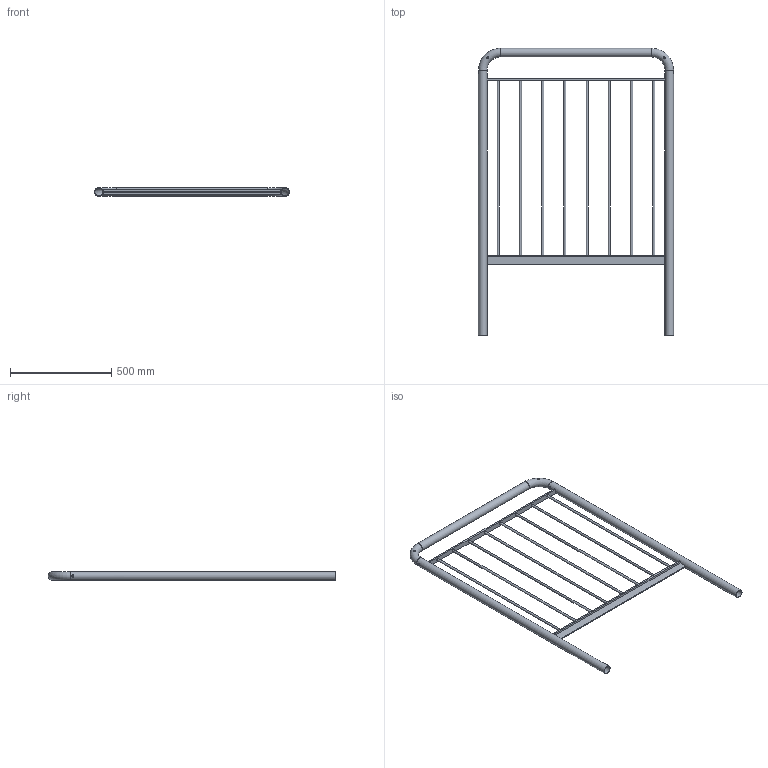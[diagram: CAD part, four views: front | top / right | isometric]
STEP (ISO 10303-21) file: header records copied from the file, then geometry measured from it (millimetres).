
FILE_DESCRIPTION((''),'2;1');
FILE_NAME('S:\Användarkataloger\AndreasA\Mina Inventor filer\Räcken\STEP\modul_bos_1000-1400.stp','2010-09-07T13:28:07',('AndreasA'),(''),'Autodesk Inventor 2011','Autodesk Inventor 2011','');
FILE_SCHEMA(('AUTOMOTIVE_DESIGN { 1 0 10303 214 1 1 1 1 }'));
Length unit declared in the file: millimetre
Products named in the file (4): modul_bos_1000-1400; handledare_modul_1000-1400; galleri_modul_1000; pls_modul_bos_1000
Assembly tree (3 placements, depth 2):
  modul_bos_1000-1400
    handledare_modul_1000-1400
    galleri_modul_1000
    pls_modul_bos_1000
Bounding box: 965.4 x 1421.2 x 42.4 mm (x, y, z)
Volume: 2110029.2 mm3; surface area: 1359879 mm2
Topology: 3 solids, 3 shells, 46 faces, 118 edges, 76 vertices
Faces by surface type: cylinder 22, plane 20, torus 4
Full cylindrical faces by diameter (mm): 10 x4, 11 x12, 38.4 x3, 42.4 x3
Entity records: 2031 total; most frequent: CARTESIAN_POINT 917, DIRECTION 198, ORIENTED_EDGE 160, EDGE_LOOP 106, AXIS2_PLACEMENT_3D 81, EDGE_CURVE 80, VERTEX_POINT 68, FACE_BOUND 60
